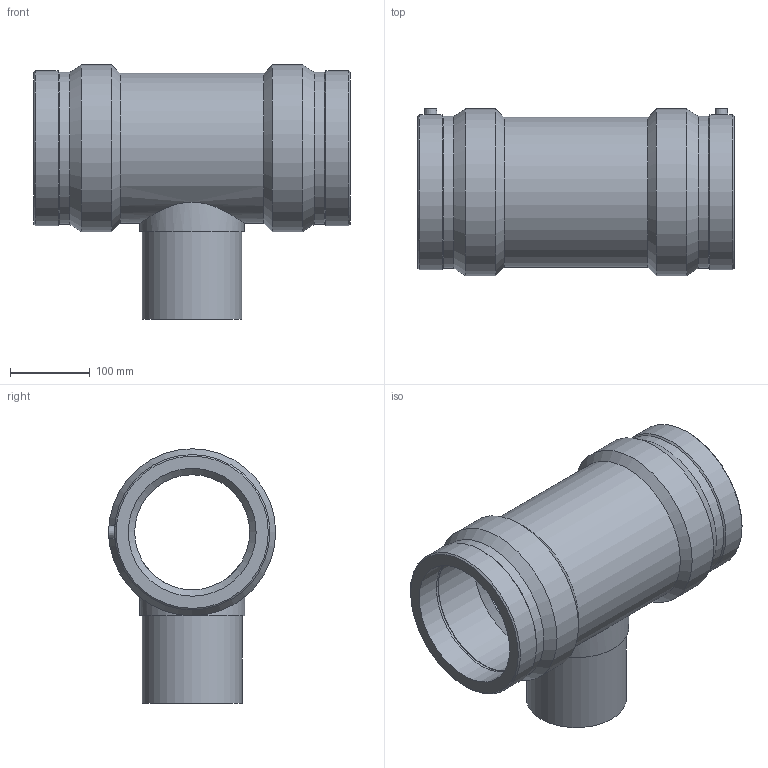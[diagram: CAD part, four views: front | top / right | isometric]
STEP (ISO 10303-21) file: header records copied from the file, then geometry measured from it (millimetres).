
FILE_DESCRIPTION(/* description */ ('PLASSON REDUCING TEE 160x125x160'),/* implementation_level */ '2;1');
FILE_NAME(/* name */ 'C:\Dropbox\KIMPROJECTS-Inventor\99-16-3568-Processing\ElectroFusion Fittings\491404\491404160125.ipt.stp',/* time_stamp */ '2019-09-09T11:27:09+03:00',/* author */ ('KIM'),/* organization */ (''),/* preprocessor_version */ 'ST-DEVELOPER v15.6',/* originating_system */ 'Autodesk Inventor 2015',/* authorisation */ '');
FILE_SCHEMA (('AUTOMOTIVE_DESIGN { 1 0 10303 214 3 1 1 }'));
Length unit declared in the file: millimetre
Products named in the file (1): 491404160125
Bounding box: 396 x 209.5 x 318.5 mm (x, y, z)
Volume: 4999866 mm3; surface area: 547185.2 mm2
Topology: 1 solids, 1 shells, 45 faces, 89 edges, 54 vertices
Faces by surface type: cylinder 19, cone 14, plane 12
Full cylindrical faces by diameter (mm): 4 x2, 10 x2, 100 x1, 125 x1, 131.25 x1, 144 x1, 160 x4, 188.1 x1, 190.483 x2, 194.37 x2, 209 x2
Entity records: 1130 total; most frequent: CARTESIAN_POINT 334, DIRECTION 176, EDGE_LOOP 92, ORIENTED_EDGE 92, AXIS2_PLACEMENT_3D 88, FACE_BOUND 47, VERTEX_POINT 46, EDGE_CURVE 46
